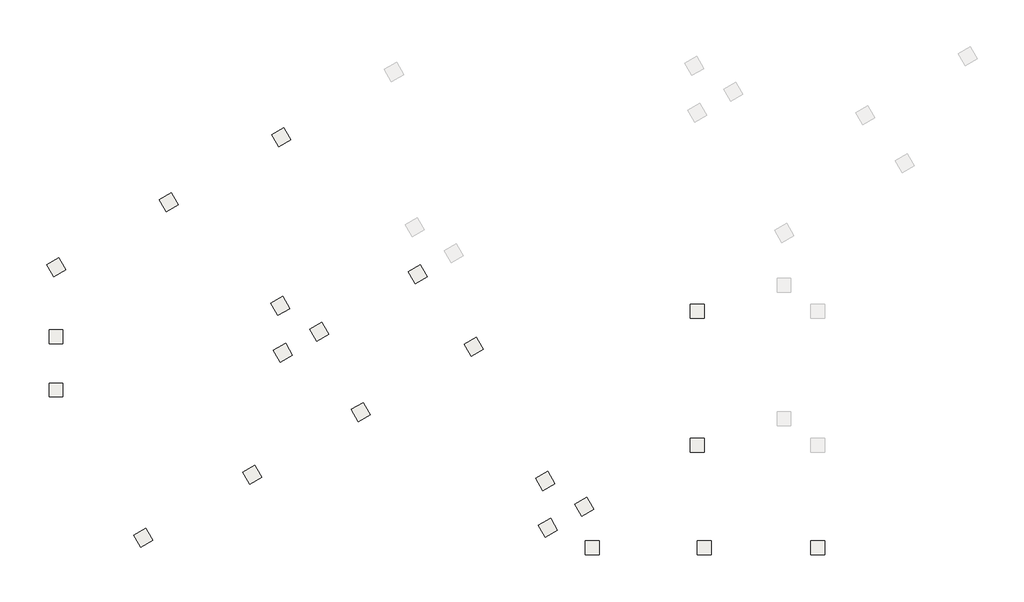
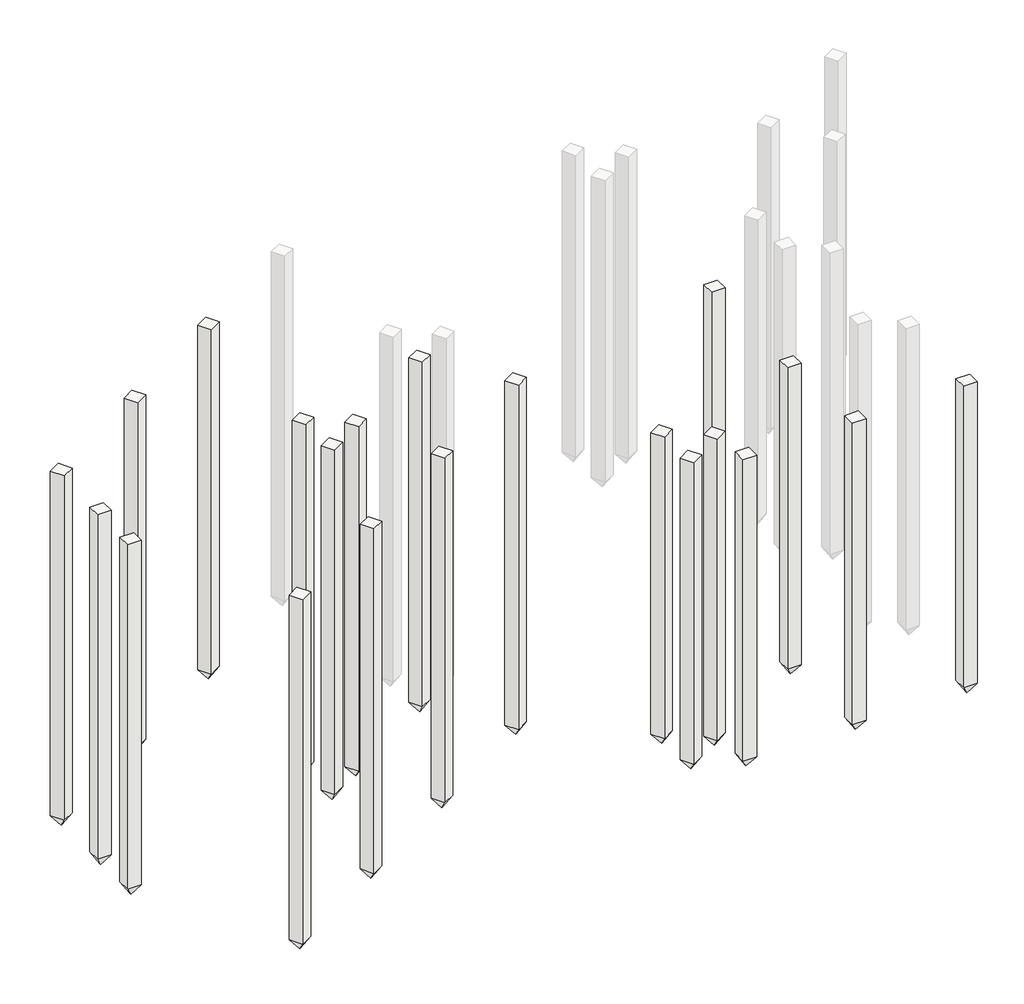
# One storey, part 1 of 2: 21 slabs.
"""IFC4 building model written with IfcOpenShell, lengths in millimetres."""

import ifcopenshell
import ifcopenshell.guid

model = None  # the IFC model being written
_history = None  # IfcOwnerHistory: only IFC2X3 demands one
_inside = {}  # id of a spatial element -> (the spatial element, [elements in it])
_under = {}  # id of a project, library or spatial element -> (it, [spatial elements below it])
_declared = {}  # id of a project -> (the project, [libraries it declares])
_typed = {}  # id of a type object -> (the type object, [elements of that type])
_made_of = {}  # id of a material, layer set ... -> (it, [elements and type objects made of it])


def new_model(schema):
    """Start an empty IFC model of exactly this schema.

    Asked for "IFC4X3", IfcOpenShell would pick the latest addendum, in which some entities
    have other attributes; the version numbers below select the first issue.
    IFC2X3 requires an IfcOwnerHistory on every rooted entity: one is made here for all.
    """
    global model, _history
    if schema == "IFC4X3":
        model = ifcopenshell.file(schema_version=(4, 3, 0, 0))
    else:
        model = ifcopenshell.file(schema=schema)
    _inside.clear()
    _under.clear()
    _declared.clear()
    _typed.clear()
    _made_of.clear()
    _history = None
    if model.schema == "IFC2X3":
        org = make("IfcOrganization", Name="unknown")
        user = make(
            "IfcPersonAndOrganization",
            ThePerson=make("IfcPerson", FamilyName="unknown"),
            TheOrganization=org,
        )
        app = make(
            "IfcApplication",
            ApplicationDeveloper=org,
            Version="unknown",
            ApplicationFullName="unknown",
            ApplicationIdentifier="unknown",
        )
        _history = make(
            "IfcOwnerHistory",
            OwningUser=user,
            OwningApplication=app,
            ChangeAction="ADDED",
            CreationDate=0,
        )
    return model


def make(cls, **values):
    """One entity of the class cls with the attributes given. An attribute that is None is left unset."""
    return model.create_entity(
        cls, **{name: value for name, value in values.items() if value is not None}
    )


def rooted(cls, **values):
    """An entity with a GlobalId (a new one), such as an element, a storey or a relation."""
    return make(cls, GlobalId=ifcopenshell.guid.new(), OwnerHistory=_history, **values)


def si_unit(unit_type, name, prefix=None):
    """IfcSIUnit, for example si_unit("LENGTHUNIT", "METRE", prefix="MILLI")."""
    return make("IfcSIUnit", UnitType=unit_type, Prefix=prefix, Name=name)


def assignment(units):
    """IfcUnitAssignment: the units of a project."""
    return None if units is None else make("IfcUnitAssignment", Units=units)


def point(xyz):
    """IfcCartesianPoint."""
    return None if xyz is None else make("IfcCartesianPoint", Coordinates=xyz)


def direction(xyz):
    """IfcDirection."""
    return None if xyz is None else make("IfcDirection", DirectionRatios=xyz)


def frame(location, z_axis=None, x_axis=None):
    """IfcAxis2Placement3D, a coordinate frame: its origin and axes. An axis left out is left unset."""
    return make(
        "IfcAxis2Placement3D",
        Location=point(location),
        Axis=direction(z_axis),
        RefDirection=direction(x_axis),
    )


def origin():
    """The frame at (0, 0, 0) with its axes left unset."""
    return frame((0.0, 0.0, 0.0))


def place(relative_to, where):
    """IfcLocalPlacement: puts the frame where relative to a parent placement (None: the world)."""
    return make(
        "IfcLocalPlacement", PlacementRelTo=relative_to, RelativePlacement=where
    )


def context(
    kind, dimensions, precision=None, world=None, true_north=None, identifier=None
):
    """IfcGeometricRepresentationContext, for example the 3D "Model" context."""
    return make(
        "IfcGeometricRepresentationContext",
        ContextIdentifier=identifier,
        ContextType=kind,
        CoordinateSpaceDimension=dimensions,
        Precision=precision,
        WorldCoordinateSystem=world,
        TrueNorth=true_north,
    )


def project(units=None, contexts=None):
    """IfcProject with its units and contexts."""
    return rooted(
        "IfcProject",
        Name="project",
        RepresentationContexts=contexts,
        UnitsInContext=assignment(units),
    )


def spatial(cls, under=None, at=None, **own):
    """A site, building, storey or space (cls), placed at a placement, below another one or the project."""
    s = rooted(cls, ObjectPlacement=at, **own)
    if under is not None:
        _under.setdefault(under.id(), (under, []))[1].append(s)
    return s


def faces_of(points, faces, orient=None, outer=None):
    """IfcFace entities. A face is a list of loops; a loop is a list of indices into points, from 0.

    orient and outer hold one flag for each loop. By default every Orientation is true, the
    first loop of a face is its IfcFaceOuterBound and the others are IfcFaceBound.
    """
    made = []
    for i, loops in enumerate(faces):
        bounds = []
        for j, loop in enumerate(loops):
            is_outer = j == 0 if outer is None else outer[i][j]
            bounds.append(
                make(
                    "IfcFaceOuterBound" if is_outer else "IfcFaceBound",
                    Bound=make("IfcPolyLoop", Polygon=[points[k] for k in loop]),
                    Orientation=True if orient is None else orient[i][j],
                )
            )
        made.append(make("IfcFace", Bounds=bounds))
    return made


def faceted_brep(points, faces, orient=None, outer=None, voids=None):
    """IfcFacetedBrep: a solid bounded by flat faces; with voids (closed shells), ...WithVoids."""
    shared = [point(p) for p in points]
    hull = make("IfcClosedShell", CfsFaces=faces_of(shared, faces, orient, outer))
    if voids is None:
        return make("IfcFacetedBrep", Outer=hull)
    return make(
        "IfcFacetedBrepWithVoids",
        Outer=hull,
        Voids=[
            make(cls, CfsFaces=faces_of(shared, fs, o, b)) for cls, fs, o, b in voids
        ],
    )


def shape(context_of_items, identifier, shape_type, items):
    """IfcShapeRepresentation: the items that make up one representation, for example the "Body"."""
    return make(
        "IfcShapeRepresentation",
        ContextOfItems=context_of_items,
        RepresentationIdentifier=identifier,
        RepresentationType=shape_type,
        Items=items,
    )


def made_of(thing, what):
    """Note that an element or type object is made of a material, layer set ...; save() writes the relation."""
    if what is not None:
        _made_of.setdefault(what.id(), (what, []))[1].append(thing)
    return thing


def element(
    cls,
    number,
    at=None,
    inside=None,
    cuts=None,
    type_object=None,
    material=None,
    context=None,
    identifier="Body",
    shape_type=None,
    held_by="IfcProductDefinitionShape",
    body=None,
    shapes=None,
    **own,
):
    """One element of the class cls, such as IfcWall. Its Tag is "e" and its number.

    at: its placement. inside: the storey or other place that contains it. cuts: it is an
    opening in that element (IfcRelVoidsElement). A single representation is given by context,
    identifier, shape_type and body (its items); several are given by shapes. held_by: the class
    of the entity that holds the representations. save() writes the other relations.
    """
    e = rooted(cls, Tag="e%d" % number, ObjectPlacement=at, **own)
    if body is not None:
        shapes = [shape(context, identifier, shape_type, body)]
    if shapes is not None:
        e.Representation = make(held_by, Representations=shapes)
    if inside is not None:
        _inside.setdefault(inside.id(), (inside, []))[1].append(e)
    if cuts is not None:
        rooted(
            "IfcRelVoidsElement", RelatingBuildingElement=cuts, RelatedOpeningElement=e
        )
    if type_object is not None:
        _typed.setdefault(type_object.id(), (type_object, []))[1].append(e)
    return made_of(e, material)


def aggregate(whole, parts):
    """IfcRelAggregates: a whole, such as a stair, and the parts it consists of."""
    return rooted("IfcRelAggregates", RelatingObject=whole, RelatedObjects=parts)


def save(model, path):
    """Write the relations noted so far, then the file.

    IfcRelAggregates (storeys below a building ...), IfcRelContainedInSpatialStructure (elements
    in a storey), IfcRelDefinesByType, IfcRelAssociatesMaterial and IfcRelDeclares: one each for
    every whole, place, type object, material and project.
    """
    for whole, parts in _under.values():
        aggregate(whole, parts)
    for where, things in _inside.values():
        rooted(
            "IfcRelContainedInSpatialStructure",
            RelatedElements=things,
            RelatingStructure=where,
        )
    for kind, things in _typed.values():
        rooted("IfcRelDefinesByType", RelatedObjects=things, RelatingType=kind)
    for what, things in _made_of.values():
        rooted("IfcRelAssociatesMaterial", RelatedObjects=things, RelatingMaterial=what)
    for by, libraries in _declared.values():
        rooted("IfcRelDeclares", RelatingContext=by, RelatedDefinitions=libraries)
    model.write(path)


model = new_model("IFC4")

# Units and contexts
model_context = context("Model", 3, world=origin())
ifc_project = project(units=[si_unit("LENGTHUNIT", "METRE", prefix="MILLI")], contexts=[model_context])

# Site, building, storey
site = spatial("IfcSite", under=ifc_project)
building = spatial("IfcBuilding", under=site)
storey = spatial("IfcBuildingStorey", under=building, Name="КЖм.-2.150 (Верх свай 2)", Elevation=-2150.0)

# Slabs
placement = place(None, origin())
element("IfcSlab", 1, ObjectType="Бетонная свая прямоугольного сечения : C70.30-8", at=placement, inside=storey, context=model_context, shape_type="Brep", body=[
    faceted_brep([(27846.8368727, 30595.7819441, -2150.0), (27587.0292515, 30445.7819441, -2150.0), (27737.0292515, 30185.9743229, -2150.0), (27996.8368727, 30335.9743229, -2150.0), (27846.8368727, 30595.7819441, -2200.0), (27846.8368727, 30595.7819441, -2300.0), (27846.8368727, 30595.7819441, -9150.0), (27587.0292515, 30445.7819441, -9150.0), (27587.0292515, 30445.7819441, -2300.0), (27587.0292515, 30445.7819441, -2200.0), (27737.0292515, 30185.9743229, -9150.0), (27737.0292515, 30185.9743229, -2300.0), (27737.0292515, 30185.9743229, -2200.0), (27996.8368727, 30335.9743229, -9150.0), (27996.8368727, 30335.9743229, -2300.0), (27996.8368727, 30335.9743229, -2200.0), (27792.1088883, 30391.418716, -9400.0), (27792.5088883, 30390.7258957, -9400.0), (27791.816068, 30390.3258957, -9400.0), (27791.416068, 30391.018716, -9400.0)], [[[0, 1, 2, 3]], [[1, 0, 4, 5, 6, 7, 8, 9]], [[2, 1, 9, 8, 7, 10, 11, 12]], [[3, 2, 12, 11, 10, 13, 14, 15]], [[0, 3, 15, 14, 13, 6, 5, 4]], [[16, 17, 18, 19]], [[17, 16, 6, 13]], [[18, 17, 13, 10]], [[19, 18, 10, 7]], [[16, 19, 7, 6]]]),
])
element("IfcSlab", 2, ObjectType="Бетонная свая прямоугольного сечения : C70.30-8", at=placement, inside=storey, context=model_context, shape_type="Brep", body=[
    faceted_brep([(27786.4634393, 31600.1997103, -2150.0), (27526.6558182, 31450.1997103, -2150.0), (27676.6558182, 31190.3920892, -2150.0), (27936.4634393, 31340.3920892, -2150.0), (27786.4634393, 31600.1997103, -2200.0), (27786.4634393, 31600.1997103, -2300.0), (27786.4634393, 31600.1997103, -9150.0), (27526.6558182, 31450.1997103, -9150.0), (27526.6558182, 31450.1997103, -2300.0), (27526.6558182, 31450.1997103, -2200.0), (27676.6558182, 31190.3920892, -9150.0), (27676.6558182, 31190.3920892, -2300.0), (27676.6558182, 31190.3920892, -2200.0), (27936.4634393, 31340.3920892, -9150.0), (27936.4634393, 31340.3920892, -2300.0), (27936.4634393, 31340.3920892, -2200.0), (27731.7354549, 31395.8364823, -9400.0), (27732.1354549, 31395.1436619, -9400.0), (27731.4426346, 31394.7436619, -9400.0), (27731.0426346, 31395.4364823, -9400.0)], [[[0, 1, 2, 3]], [[1, 0, 4, 5, 6, 7, 8, 9]], [[2, 1, 9, 8, 7, 10, 11, 12]], [[3, 2, 12, 11, 10, 13, 14, 15]], [[0, 3, 15, 14, 13, 6, 5, 4]], [[16, 17, 18, 19]], [[17, 16, 6, 13]], [[18, 17, 13, 10]], [[19, 18, 10, 7]], [[16, 19, 7, 6]]]),
])
element("IfcSlab", 3, ObjectType="Бетонная свая прямоугольного сечения : C70.30-8", at=placement, inside=storey, context=model_context, shape_type="Brep", body=[
    faceted_brep([(28626.2217125, 31045.8477964, -2150.0), (28366.4140914, 30895.8477964, -2150.0), (28516.4140914, 30636.0401753, -2150.0), (28776.2217125, 30786.0401753, -2150.0), (28626.2217125, 31045.8477964, -2200.0), (28626.2217125, 31045.8477964, -2300.0), (28626.2217125, 31045.8477964, -9150.0), (28366.4140914, 30895.8477964, -9150.0), (28366.4140914, 30895.8477964, -2300.0), (28366.4140914, 30895.8477964, -2200.0), (28516.4140914, 30636.0401753, -9150.0), (28516.4140914, 30636.0401753, -2300.0), (28516.4140914, 30636.0401753, -2200.0), (28776.2217125, 30786.0401753, -9150.0), (28776.2217125, 30786.0401753, -2300.0), (28776.2217125, 30786.0401753, -2200.0), (28571.4937281, 30841.4845684, -9400.0), (28571.8937281, 30840.7917481, -9400.0), (28571.2009078, 30840.3917481, -9400.0), (28570.8009078, 30841.0845684, -9400.0)], [[[0, 1, 2, 3]], [[1, 0, 4, 5, 6, 7, 8, 9]], [[2, 1, 9, 8, 7, 10, 11, 12]], [[3, 2, 12, 11, 10, 13, 14, 15]], [[0, 3, 15, 14, 13, 6, 5, 4]], [[16, 17, 18, 19]], [[17, 16, 6, 13]], [[18, 17, 13, 10]], [[19, 18, 10, 7]], [[16, 19, 7, 6]]]),
])
element("IfcSlab", 4, ObjectType="Бетонная свая прямоугольного сечения : C70.30-8", at=placement, inside=storey, context=model_context, shape_type="Brep", body=[
    faceted_brep([(28898.2067055, 30104.4791871, -2150.0), (28598.2067055, 30104.4791871, -2150.0), (28598.2067055, 29804.4791871, -2150.0), (28898.2067055, 29804.4791871, -2150.0), (28898.2067055, 30104.4791871, -2200.0), (28898.2067055, 30104.4791871, -2300.0), (28898.2067055, 30104.4791871, -9150.0), (28598.2067055, 30104.4791871, -9150.0), (28598.2067055, 30104.4791871, -2300.0), (28598.2067055, 30104.4791871, -2200.0), (28598.2067055, 29804.4791871, -9150.0), (28598.2067055, 29804.4791871, -2300.0), (28598.2067055, 29804.4791871, -2200.0), (28898.2067055, 29804.4791871, -9150.0), (28898.2067055, 29804.4791871, -2300.0), (28898.2067055, 29804.4791871, -2200.0), (28748.6292667, 29954.8594322, -9400.0), (28748.6292667, 29954.0594322, -9400.0), (28747.8292667, 29954.0594322, -9400.0), (28747.8292667, 29954.8594322, -9400.0)], [[[0, 1, 2, 3]], [[1, 0, 4, 5, 6, 7, 8, 9]], [[2, 1, 9, 8, 7, 10, 11, 12]], [[3, 2, 12, 11, 10, 13, 14, 15]], [[0, 3, 15, 14, 13, 6, 5, 4]], [[16, 17, 18, 19]], [[17, 16, 6, 13]], [[18, 17, 13, 10]], [[19, 18, 10, 7]], [[16, 19, 7, 6]]]),
])
element("IfcSlab", 5, ObjectType="Бетонная свая прямоугольного сечения : C70.30-8", at=placement, inside=storey, context=model_context, shape_type="Brep", body=[
    faceted_brep([(31303.2067055, 30104.4791871, -2150.0), (31003.2067055, 30104.4791871, -2150.0), (31003.2067055, 29804.4791871, -2150.0), (31303.2067055, 29804.4791871, -2150.0), (31303.2067055, 30104.4791871, -2200.0), (31303.2067055, 30104.4791871, -2300.0), (31303.2067055, 30104.4791871, -9150.0), (31003.2067055, 30104.4791871, -9150.0), (31003.2067055, 30104.4791871, -2300.0), (31003.2067055, 30104.4791871, -2200.0), (31003.2067055, 29804.4791871, -9150.0), (31003.2067055, 29804.4791871, -2300.0), (31003.2067055, 29804.4791871, -2200.0), (31303.2067055, 29804.4791871, -9150.0), (31303.2067055, 29804.4791871, -2300.0), (31303.2067055, 29804.4791871, -2200.0), (31153.6292667, 29954.8594322, -9400.0), (31153.6292667, 29954.0594322, -9400.0), (31152.8292667, 29954.0594322, -9400.0), (31152.8292667, 29954.8594322, -9400.0)], [[[0, 1, 2, 3]], [[1, 0, 4, 5, 6, 7, 8, 9]], [[2, 1, 9, 8, 7, 10, 11, 12]], [[3, 2, 12, 11, 10, 13, 14, 15]], [[0, 3, 15, 14, 13, 6, 5, 4]], [[16, 17, 18, 19]], [[17, 16, 6, 13]], [[18, 17, 13, 10]], [[19, 18, 10, 7]], [[16, 19, 7, 6]]]),
])
element("IfcSlab", 6, ObjectType="Бетонная свая прямоугольного сечения : C70.30-8", at=placement, inside=storey, context=model_context, shape_type="Brep", body=[
    faceted_brep([(31153.2058251, 32314.4786669, -2150.0), (30853.2058251, 32314.4786669, -2150.0), (30853.2058251, 32014.4786669, -2150.0), (31153.2058251, 32014.4786669, -2150.0), (31153.2058251, 32314.4786669, -2200.0), (31153.2058251, 32314.4786669, -2300.0), (31153.2058251, 32314.4786669, -9150.0), (30853.2058251, 32314.4786669, -9150.0), (30853.2058251, 32314.4786669, -2300.0), (30853.2058251, 32314.4786669, -2200.0), (30853.2058251, 32014.4786669, -9150.0), (30853.2058251, 32014.4786669, -2300.0), (30853.2058251, 32014.4786669, -2200.0), (31153.2058251, 32014.4786669, -9150.0), (31153.2058251, 32014.4786669, -2300.0), (31153.2058251, 32014.4786669, -2200.0), (31003.6283863, 32164.858912, -9400.0), (31003.6283863, 32164.058912, -9400.0), (31002.8283863, 32164.058912, -9400.0), (31002.8283863, 32164.858912, -9400.0)], [[[0, 1, 2, 3]], [[1, 0, 4, 5, 6, 7, 8, 9]], [[2, 1, 9, 8, 7, 10, 11, 12]], [[3, 2, 12, 11, 10, 13, 14, 15]], [[0, 3, 15, 14, 13, 6, 5, 4]], [[16, 17, 18, 19]], [[17, 16, 6, 13]], [[18, 17, 13, 10]], [[19, 18, 10, 7]], [[16, 19, 7, 6]]]),
])
element("IfcSlab", 7, ObjectType="Бетонная свая прямоугольного сечения : C70.30-8", at=placement, inside=storey, context=model_context, shape_type="Brep", body=[
    faceted_brep([(33748.2048022, 30104.478693, -2150.0), (33448.2048022, 30104.478693, -2150.0), (33448.2048022, 29804.478693, -2150.0), (33748.2048022, 29804.478693, -2150.0), (33748.2048022, 30104.478693, -2200.0), (33748.2048022, 30104.478693, -2300.0), (33748.2048022, 30104.478693, -9150.0), (33448.2048022, 30104.478693, -9150.0), (33448.2048022, 30104.478693, -2300.0), (33448.2048022, 30104.478693, -2200.0), (33448.2048022, 29804.478693, -9150.0), (33448.2048022, 29804.478693, -2300.0), (33448.2048022, 29804.478693, -2200.0), (33748.2048022, 29804.478693, -9150.0), (33748.2048022, 29804.478693, -2300.0), (33748.2048022, 29804.478693, -2200.0), (33598.6273635, 29954.8589381, -9400.0), (33598.6273635, 29954.0589381, -9400.0), (33597.8273635, 29954.0589381, -9400.0), (33597.8273635, 29954.8589381, -9400.0)], [[[0, 1, 2, 3]], [[1, 0, 4, 5, 6, 7, 8, 9]], [[2, 1, 9, 8, 7, 10, 11, 12]], [[3, 2, 12, 11, 10, 13, 14, 15]], [[0, 3, 15, 14, 13, 6, 5, 4]], [[16, 17, 18, 19]], [[17, 16, 6, 13]], [[18, 17, 13, 10]], [[19, 18, 10, 7]], [[16, 19, 7, 6]]]),
])
element("IfcSlab", 8, ObjectType="Бетонная свая прямоугольного сечения : C70.30-8", at=placement, inside=storey, context=model_context, shape_type="Brep", body=[
    faceted_brep([(31153.2058238, 35204.1708635, -2150.0), (30853.2058238, 35204.1708635, -2150.0), (30853.2058238, 34904.1708635, -2150.0), (31153.2058238, 34904.1708635, -2150.0), (31153.2058238, 35204.1708635, -2200.0), (31153.2058238, 35204.1708635, -2300.0), (31153.2058238, 35204.1708635, -9150.0), (30853.2058238, 35204.1708635, -9150.0), (30853.2058238, 35204.1708635, -2300.0), (30853.2058238, 35204.1708635, -2200.0), (30853.2058238, 34904.1708635, -9150.0), (30853.2058238, 34904.1708635, -2300.0), (30853.2058238, 34904.1708635, -2200.0), (31153.2058238, 34904.1708635, -9150.0), (31153.2058238, 34904.1708635, -2300.0), (31153.2058238, 34904.1708635, -2200.0), (31003.628385, 35054.5511086, -9400.0), (31003.628385, 35053.7511086, -9400.0), (31002.828385, 35053.7511086, -9400.0), (31002.828385, 35054.5511086, -9400.0)], [[[0, 1, 2, 3]], [[1, 0, 4, 5, 6, 7, 8, 9]], [[2, 1, 9, 8, 7, 10, 11, 12]], [[3, 2, 12, 11, 10, 13, 14, 15]], [[0, 3, 15, 14, 13, 6, 5, 4]], [[16, 17, 18, 19]], [[17, 16, 6, 13]], [[18, 17, 13, 10]], [[19, 18, 10, 7]], [[16, 19, 7, 6]]]),
])
element("IfcSlab", 9, ObjectType="Бетонная свая прямоугольного сечения : C80.30-8", at=placement, inside=storey, context=model_context, shape_type="Brep", body=[
    faceted_brep([(22143.2426182, 34363.5327121, -2150.0), (21883.434997, 34213.5327121, -2150.0), (22033.434997, 33953.725091, -2150.0), (22293.2426182, 34103.725091, -2150.0), (22143.2426182, 34363.5327121, -2200.0), (22143.2426182, 34363.5327121, -2300.0), (22143.2426182, 34363.5327121, -10150.0), (21883.434997, 34213.5327121, -10150.0), (21883.434997, 34213.5327121, -2300.0), (21883.434997, 34213.5327121, -2200.0), (22033.434997, 33953.725091, -10150.0), (22033.434997, 33953.725091, -2300.0), (22033.434997, 33953.725091, -2200.0), (22293.2426182, 34103.725091, -10150.0), (22293.2426182, 34103.725091, -2300.0), (22293.2426182, 34103.725091, -2200.0), (22088.5146338, 34159.1694841, -10400.0), (22088.9146338, 34158.4766638, -10400.0), (22088.2218135, 34158.0766638, -10400.0), (22087.8218135, 34158.7694841, -10400.0)], [[[0, 1, 2, 3]], [[1, 0, 4, 5, 6, 7, 8, 9]], [[2, 1, 9, 8, 7, 10, 11, 12]], [[3, 2, 12, 11, 10, 13, 14, 15]], [[0, 3, 15, 14, 13, 6, 5, 4]], [[16, 17, 18, 19]], [[17, 16, 6, 13]], [[18, 17, 13, 10]], [[19, 18, 10, 7]], [[16, 19, 7, 6]]]),
])
element("IfcSlab", 10, ObjectType="Бетонная свая прямоугольного сечения : C80.30-8", at=placement, inside=storey, context=model_context, shape_type="Brep", body=[
    faceted_brep([(22922.627458, 34813.5985645, -2150.0), (22662.8198368, 34663.5985645, -2150.0), (22812.8198368, 34403.7909434, -2150.0), (23072.627458, 34553.7909434, -2150.0), (22922.627458, 34813.5985645, -2200.0), (22922.627458, 34813.5985645, -2300.0), (22922.627458, 34813.5985645, -10150.0), (22662.8198368, 34663.5985645, -10150.0), (22662.8198368, 34663.5985645, -2300.0), (22662.8198368, 34663.5985645, -2200.0), (22812.8198368, 34403.7909434, -10150.0), (22812.8198368, 34403.7909434, -2300.0), (22812.8198368, 34403.7909434, -2200.0), (23072.627458, 34553.7909434, -10150.0), (23072.627458, 34553.7909434, -2300.0), (23072.627458, 34553.7909434, -2200.0), (22867.8994736, 34609.2353365, -10400.0), (22868.2994736, 34608.5425161, -10400.0), (22867.6066533, 34608.1425161, -10400.0), (22867.2066533, 34608.8353365, -10400.0)], [[[0, 1, 2, 3]], [[1, 0, 4, 5, 6, 7, 8, 9]], [[2, 1, 9, 8, 7, 10, 11, 12]], [[3, 2, 12, 11, 10, 13, 14, 15]], [[0, 3, 15, 14, 13, 6, 5, 4]], [[16, 17, 18, 19]], [[17, 16, 6, 13]], [[18, 17, 13, 10]], [[19, 18, 10, 7]], [[16, 19, 7, 6]]]),
])
element("IfcSlab", 11, ObjectType="Бетонная свая прямоугольного сечения : C80.30-8", at=placement, inside=storey, context=model_context, shape_type="Brep", body=[
    faceted_brep([(22082.8691859, 35367.950479, -2150.0), (21823.0615648, 35217.950479, -2150.0), (21973.0615648, 34958.1428579, -2150.0), (22232.8691859, 35108.1428579, -2150.0), (22082.8691859, 35367.950479, -2200.0), (22082.8691859, 35367.950479, -2300.0), (22082.8691859, 35367.950479, -10150.0), (21823.0615648, 35217.950479, -10150.0), (21823.0615648, 35217.950479, -2300.0), (21823.0615648, 35217.950479, -2200.0), (21973.0615648, 34958.1428579, -10150.0), (21973.0615648, 34958.1428579, -2300.0), (21973.0615648, 34958.1428579, -2200.0), (22232.8691859, 35108.1428579, -10150.0), (22232.8691859, 35108.1428579, -2300.0), (22232.8691859, 35108.1428579, -2200.0), (22028.1412016, 35163.587251, -10400.0), (22028.5412016, 35162.8944307, -10400.0), (22027.8483813, 35162.4944307, -10400.0), (22027.4483813, 35163.187251, -10400.0)], [[[0, 1, 2, 3]], [[1, 0, 4, 5, 6, 7, 8, 9]], [[2, 1, 9, 8, 7, 10, 11, 12]], [[3, 2, 12, 11, 10, 13, 14, 15]], [[0, 3, 15, 14, 13, 6, 5, 4]], [[16, 17, 18, 19]], [[17, 16, 6, 13]], [[18, 17, 13, 10]], [[19, 18, 10, 7]], [[16, 19, 7, 6]]]),
])
element("IfcSlab", 12, ObjectType="Бетонная свая прямоугольного сечения : C80.30-8", at=placement, inside=storey, context=model_context, shape_type="Brep", body=[
    faceted_brep([(25041.4340346, 36054.4385451, -2150.0), (24781.6264134, 35904.4385451, -2150.0), (24931.6264134, 35644.6309239, -2150.0), (25191.4340346, 35794.6309239, -2150.0), (25041.4340346, 36054.4385451, -2200.0), (25041.4340346, 36054.4385451, -2300.0), (25041.4340346, 36054.4385451, -10150.0), (24781.6264134, 35904.4385451, -10150.0), (24781.6264134, 35904.4385451, -2300.0), (24781.6264134, 35904.4385451, -2200.0), (24931.6264134, 35644.6309239, -10150.0), (24931.6264134, 35644.6309239, -2300.0), (24931.6264134, 35644.6309239, -2200.0), (25191.4340346, 35794.6309239, -10150.0), (25191.4340346, 35794.6309239, -2300.0), (25191.4340346, 35794.6309239, -2200.0), (24986.7060502, 35850.075317, -10400.0), (24987.1060502, 35849.3824967, -10400.0), (24986.4132299, 35848.9824967, -10400.0), (24986.0132299, 35849.675317, -10400.0)], [[[0, 1, 2, 3]], [[1, 0, 4, 5, 6, 7, 8, 9]], [[2, 1, 9, 8, 7, 10, 11, 12]], [[3, 2, 12, 11, 10, 13, 14, 15]], [[0, 3, 15, 14, 13, 6, 5, 4]], [[16, 17, 18, 19]], [[17, 16, 6, 13]], [[18, 17, 13, 10]], [[19, 18, 10, 7]], [[16, 19, 7, 6]]]),
])
element("IfcSlab", 13, ObjectType="Бетонная свая прямоугольного сечения : C80.30-8", at=placement, inside=storey, context=model_context, shape_type="Brep", body=[
    faceted_brep([(26246.5637606, 34486.7067128, -2150.0), (25986.7561395, 34336.7067128, -2150.0), (26136.7561395, 34076.8990917, -2150.0), (26396.5637606, 34226.8990917, -2150.0), (26246.5637606, 34486.7067128, -2200.0), (26246.5637606, 34486.7067128, -2300.0), (26246.5637606, 34486.7067128, -10150.0), (25986.7561395, 34336.7067128, -10150.0), (25986.7561395, 34336.7067128, -2300.0), (25986.7561395, 34336.7067128, -2200.0), (26136.7561395, 34076.8990917, -10150.0), (26136.7561395, 34076.8990917, -2300.0), (26136.7561395, 34076.8990917, -2200.0), (26396.5637606, 34226.8990917, -10150.0), (26396.5637606, 34226.8990917, -2300.0), (26396.5637606, 34226.8990917, -2200.0), (26191.8357763, 34282.3434848, -10400.0), (26192.2357763, 34281.6506645, -10400.0), (26191.5429559, 34281.2506645, -10400.0), (26191.1429559, 34281.9434848, -10400.0)], [[[0, 1, 2, 3]], [[1, 0, 4, 5, 6, 7, 8, 9]], [[2, 1, 9, 8, 7, 10, 11, 12]], [[3, 2, 12, 11, 10, 13, 14, 15]], [[0, 3, 15, 14, 13, 6, 5, 4]], [[16, 17, 18, 19]], [[17, 16, 6, 13]], [[18, 17, 13, 10]], [[19, 18, 10, 7]], [[16, 19, 7, 6]]]),
])
element("IfcSlab", 14, ObjectType="Бетонная свая прямоугольного сечения : C80.30-8", at=placement, inside=storey, context=model_context, shape_type="Brep", body=[
    faceted_brep([(22108.348438, 39003.4434203, -2150.0), (21848.5408169, 38853.4434203, -2150.0), (21998.5408169, 38593.6357992, -2150.0), (22258.348438, 38743.6357992, -2150.0), (22108.348438, 39003.4434203, -2200.0), (22108.348438, 39003.4434203, -2300.0), (22108.348438, 39003.4434203, -10150.0), (21848.5408169, 38853.4434203, -10150.0), (21848.5408169, 38853.4434203, -2300.0), (21848.5408169, 38853.4434203, -2200.0), (21998.5408169, 38593.6357992, -10150.0), (21998.5408169, 38593.6357992, -2300.0), (21998.5408169, 38593.6357992, -2200.0), (22258.348438, 38743.6357992, -10150.0), (22258.348438, 38743.6357992, -2300.0), (22258.348438, 38743.6357992, -2200.0), (22053.6204536, 38799.0801923, -10400.0), (22054.0204536, 38798.3873719, -10400.0), (22053.3276333, 38797.9873719, -10400.0), (22052.9276333, 38798.6801923, -10400.0)], [[[0, 1, 2, 3]], [[1, 0, 4, 5, 6, 7, 8, 9]], [[2, 1, 9, 8, 7, 10, 11, 12]], [[3, 2, 12, 11, 10, 13, 14, 15]], [[0, 3, 15, 14, 13, 6, 5, 4]], [[16, 17, 18, 19]], [[17, 16, 6, 13]], [[18, 17, 13, 10]], [[19, 18, 10, 7]], [[16, 19, 7, 6]]]),
])
element("IfcSlab", 15, ObjectType="Бетонная свая прямоугольного сечения : C80.30-8", at=placement, inside=storey, context=model_context, shape_type="Brep", body=[
    faceted_brep([(19683.7320702, 37603.002251, -2150.0), (19423.924449, 37453.002251, -2150.0), (19573.924449, 37193.1946298, -2150.0), (19833.7320702, 37343.1946298, -2150.0), (19683.7320702, 37603.002251, -2200.0), (19683.7320702, 37603.002251, -2300.0), (19683.7320702, 37603.002251, -10150.0), (19423.924449, 37453.002251, -10150.0), (19423.924449, 37453.002251, -2300.0), (19423.924449, 37453.002251, -2200.0), (19573.924449, 37193.1946298, -10150.0), (19573.924449, 37193.1946298, -2300.0), (19573.924449, 37193.1946298, -2200.0), (19833.7320702, 37343.1946298, -10150.0), (19833.7320702, 37343.1946298, -2300.0), (19833.7320702, 37343.1946298, -2200.0), (19629.0040858, 37398.6390229, -10400.0), (19629.4040858, 37397.9462026, -10400.0), (19628.7112655, 37397.5462026, -10400.0), (19628.3112655, 37398.2390229, -10400.0)], [[[0, 1, 2, 3]], [[1, 0, 4, 5, 6, 7, 8, 9]], [[2, 1, 9, 8, 7, 10, 11, 12]], [[3, 2, 12, 11, 10, 13, 14, 15]], [[0, 3, 15, 14, 13, 6, 5, 4]], [[16, 17, 18, 19]], [[17, 16, 6, 13]], [[18, 17, 13, 10]], [[19, 18, 10, 7]], [[16, 19, 7, 6]]]),
])
element("IfcSlab", 16, ObjectType="Бетонная свая прямоугольного сечения : C80.30-8", at=placement, inside=storey, context=model_context, shape_type="Brep", body=[
    faceted_brep([(17259.1157016, 36202.5610828, -2150.0), (16999.3080805, 36052.5610828, -2150.0), (17149.3080805, 35792.7534617, -2150.0), (17409.1157016, 35942.7534617, -2150.0), (17259.1157016, 36202.5610828, -2200.0), (17259.1157016, 36202.5610828, -2300.0), (17259.1157016, 36202.5610828, -10150.0), (16999.3080805, 36052.5610828, -10150.0), (16999.3080805, 36052.5610828, -2300.0), (16999.3080805, 36052.5610828, -2200.0), (17149.3080805, 35792.7534617, -10150.0), (17149.3080805, 35792.7534617, -2300.0), (17149.3080805, 35792.7534617, -2200.0), (17409.1157016, 35942.7534617, -10150.0), (17409.1157016, 35942.7534617, -2300.0), (17409.1157016, 35942.7534617, -2200.0), (17204.3877173, 35998.1978548, -10400.0), (17204.7877173, 35997.5050344, -10400.0), (17204.094897, 35997.1050344, -10400.0), (17203.694897, 35997.7978548, -10400.0)], [[[0, 1, 2, 3]], [[1, 0, 4, 5, 6, 7, 8, 9]], [[2, 1, 9, 8, 7, 10, 11, 12]], [[3, 2, 12, 11, 10, 13, 14, 15]], [[0, 3, 15, 14, 13, 6, 5, 4]], [[16, 17, 18, 19]], [[17, 16, 6, 13]], [[18, 17, 13, 10]], [[19, 18, 10, 7]], [[16, 19, 7, 6]]]),
])
element("IfcSlab", 17, ObjectType="Бетонная свая прямоугольного сечения : C80.30-8", at=placement, inside=storey, context=model_context, shape_type="Brep", body=[
    faceted_brep([(23817.1145276, 33084.7877773, -2150.0), (23557.3069065, 32934.7877773, -2150.0), (23707.3069065, 32674.9801562, -2150.0), (23967.1145276, 32824.9801562, -2150.0), (23817.1145276, 33084.7877773, -2200.0), (23817.1145276, 33084.7877773, -2300.0), (23817.1145276, 33084.7877773, -10150.0), (23557.3069065, 32934.7877773, -10150.0), (23557.3069065, 32934.7877773, -2300.0), (23557.3069065, 32934.7877773, -2200.0), (23707.3069065, 32674.9801562, -10150.0), (23707.3069065, 32674.9801562, -2300.0), (23707.3069065, 32674.9801562, -2200.0), (23967.1145276, 32824.9801562, -10150.0), (23967.1145276, 32824.9801562, -2300.0), (23967.1145276, 32824.9801562, -2200.0), (23762.3865433, 32880.4245493, -10400.0), (23762.7865433, 32879.7317289, -10400.0), (23762.0937229, 32879.3317289, -10400.0), (23761.6937229, 32880.0245493, -10400.0)], [[[0, 1, 2, 3]], [[1, 0, 4, 5, 6, 7, 8, 9]], [[2, 1, 9, 8, 7, 10, 11, 12]], [[3, 2, 12, 11, 10, 13, 14, 15]], [[0, 3, 15, 14, 13, 6, 5, 4]], [[16, 17, 18, 19]], [[17, 16, 6, 13]], [[18, 17, 13, 10]], [[19, 18, 10, 7]], [[16, 19, 7, 6]]]),
])
element("IfcSlab", 18, ObjectType="Бетонная свая прямоугольного сечения : C80.30-8", at=placement, inside=storey, context=model_context, shape_type="Brep", body=[
    faceted_brep([(21479.0916008, 31734.3623652, -2150.0), (21219.2839797, 31584.3623652, -2150.0), (21369.2839797, 31324.554744, -2150.0), (21629.0916008, 31474.554744, -2150.0), (21479.0916008, 31734.3623652, -2200.0), (21479.0916008, 31734.3623652, -2300.0), (21479.0916008, 31734.3623652, -10150.0), (21219.2839797, 31584.3623652, -10150.0), (21219.2839797, 31584.3623652, -2300.0), (21219.2839797, 31584.3623652, -2200.0), (21369.2839797, 31324.554744, -10150.0), (21369.2839797, 31324.554744, -2300.0), (21369.2839797, 31324.554744, -2200.0), (21629.0916008, 31474.554744, -10150.0), (21629.0916008, 31474.554744, -2300.0), (21629.0916008, 31474.554744, -2200.0), (21424.3636164, 31529.9991371, -10400.0), (21424.7636164, 31529.3063168, -10400.0), (21424.0707961, 31528.9063168, -10400.0), (21423.6707961, 31529.5991371, -10400.0)], [[[0, 1, 2, 3]], [[1, 0, 4, 5, 6, 7, 8, 9]], [[2, 1, 9, 8, 7, 10, 11, 12]], [[3, 2, 12, 11, 10, 13, 14, 15]], [[0, 3, 15, 14, 13, 6, 5, 4]], [[16, 17, 18, 19]], [[17, 16, 6, 13]], [[18, 17, 13, 10]], [[19, 18, 10, 7]], [[16, 19, 7, 6]]]),
])
element("IfcSlab", 19, ObjectType="Бетонная свая прямоугольного сечения : C80.30-8", at=placement, inside=storey, context=model_context, shape_type="Brep", body=[
    faceted_brep([(19135.2941715, 30380.2406991, -2150.0), (18875.4992725, 30230.2186658, -2150.0), (19025.5213059, 29970.4237668, -2150.0), (19285.3162048, 30120.4458001, -2150.0), (19135.2941715, 30380.2406991, -2200.0), (19135.2941715, 30380.2406991, -2300.0), (19135.2941715, 30380.2406991, -10150.0), (18875.4992725, 30230.2186658, -10150.0), (18875.4992725, 30230.2186658, -2300.0), (18875.4992725, 30230.2186658, -2200.0), (19025.5213059, 29970.4237668, -10150.0), (19025.5213059, 29970.4237668, -2300.0), (19025.5213059, 29970.4237668, -2200.0), (19285.3162048, 30120.4458001, -10150.0), (19285.3162048, 30120.4458001, -2300.0), (19285.3162048, 30120.4458001, -2200.0), (19080.583519, 30175.8728304, -10400.0), (19080.9835778, 30175.180044, -10400.0), (19080.2907914, 30174.7799852, -10400.0), (19079.8907326, 30175.4727716, -10400.0)], [[[0, 1, 2, 3]], [[1, 0, 4, 5, 6, 7, 8, 9]], [[2, 1, 9, 8, 7, 10, 11, 12]], [[3, 2, 12, 11, 10, 13, 14, 15]], [[0, 3, 15, 14, 13, 6, 5, 4]], [[16, 17, 18, 19]], [[17, 16, 6, 13]], [[18, 17, 13, 10]], [[19, 18, 10, 7]], [[16, 19, 7, 6]]]),
])
element("IfcSlab", 20, ObjectType="Бетонная свая прямоугольного сечения : C80.30-8", at=placement, inside=storey, context=model_context, shape_type="Brep", body=[
    faceted_brep([(17353.204549, 34654.4787004, -2150.0), (17053.204549, 34654.4787004, -2150.0), (17053.204549, 34354.4787004, -2150.0), (17353.204549, 34354.4787004, -2150.0), (17353.204549, 34654.4787004, -2200.0), (17353.204549, 34654.4787004, -2300.0), (17353.204549, 34654.4787004, -10150.0), (17053.204549, 34654.4787004, -10150.0), (17053.204549, 34654.4787004, -2300.0), (17053.204549, 34654.4787004, -2200.0), (17053.204549, 34354.4787004, -10150.0), (17053.204549, 34354.4787004, -2300.0), (17053.204549, 34354.4787004, -2200.0), (17353.204549, 34354.4787004, -10150.0), (17353.204549, 34354.4787004, -2300.0), (17353.204549, 34354.4787004, -2200.0), (17203.6271102, 34504.8589455, -10400.0), (17203.6271102, 34504.0589455, -10400.0), (17202.8271102, 34504.0589455, -10400.0), (17202.8271102, 34504.8589455, -10400.0)], [[[0, 1, 2, 3]], [[1, 0, 4, 5, 6, 7, 8, 9]], [[2, 1, 9, 8, 7, 10, 11, 12]], [[3, 2, 12, 11, 10, 13, 14, 15]], [[0, 3, 15, 14, 13, 6, 5, 4]], [[16, 17, 18, 19]], [[17, 16, 6, 13]], [[18, 17, 13, 10]], [[19, 18, 10, 7]], [[16, 19, 7, 6]]]),
])
element("IfcSlab", 21, ObjectType="Бетонная свая прямоугольного сечения : C80.30-8", at=placement, inside=storey, context=model_context, shape_type="Brep", body=[
    faceted_brep([(17353.204549, 33504.4786858, -2150.0), (17053.204549, 33504.4786858, -2150.0), (17053.204549, 33204.4786858, -2150.0), (17353.204549, 33204.4786858, -2150.0), (17353.204549, 33504.4786858, -2200.0), (17353.204549, 33504.4786858, -2300.0), (17353.204549, 33504.4786858, -10150.0), (17053.204549, 33504.4786858, -10150.0), (17053.204549, 33504.4786858, -2300.0), (17053.204549, 33504.4786858, -2200.0), (17053.204549, 33204.4786858, -10150.0), (17053.204549, 33204.4786858, -2300.0), (17053.204549, 33204.4786858, -2200.0), (17353.204549, 33204.4786858, -10150.0), (17353.204549, 33204.4786858, -2300.0), (17353.204549, 33204.4786858, -2200.0), (17203.6271102, 33354.8589309, -10400.0), (17203.6271102, 33354.0589309, -10400.0), (17202.8271102, 33354.0589309, -10400.0), (17202.8271102, 33354.8589309, -10400.0)], [[[0, 1, 2, 3]], [[1, 0, 4, 5, 6, 7, 8, 9]], [[2, 1, 9, 8, 7, 10, 11, 12]], [[3, 2, 12, 11, 10, 13, 14, 15]], [[0, 3, 15, 14, 13, 6, 5, 4]], [[16, 17, 18, 19]], [[17, 16, 6, 13]], [[18, 17, 13, 10]], [[19, 18, 10, 7]], [[16, 19, 7, 6]]]),
])

save(model, "model.ifc")
